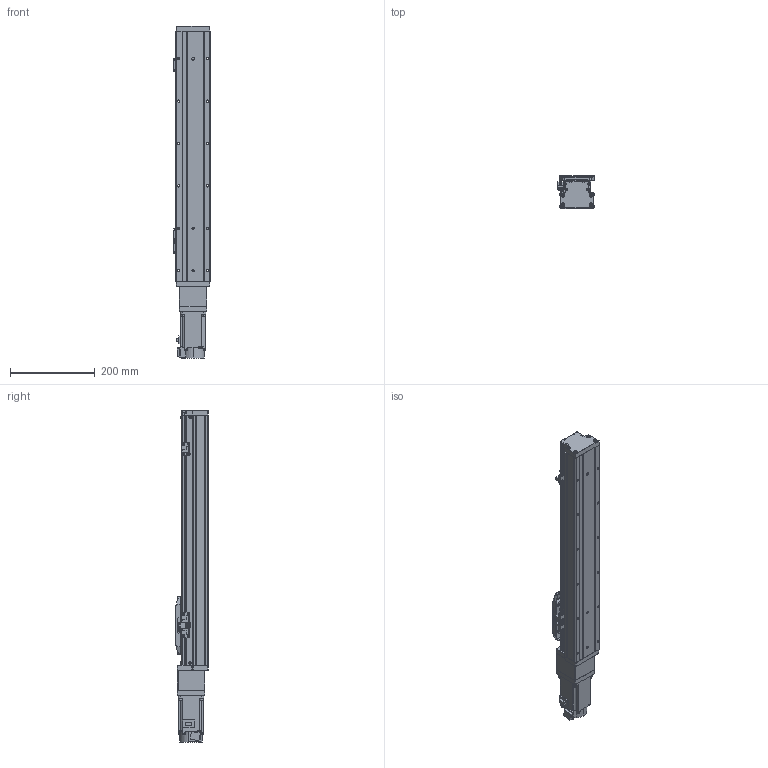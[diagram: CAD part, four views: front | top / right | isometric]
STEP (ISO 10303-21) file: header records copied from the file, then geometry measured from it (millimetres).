
FILE_DESCRIPTION (( 'STEP AP203' ), '1' );
FILE_NAME ('GTH8-400-BC-M20-C4.step', '2022-09-23T00:54:46', ( '微软用户' ), ( '微软中国' ), 'SwSTEP 2.0', 'SolidWorks 2020', '' );
FILE_SCHEMA (( 'CONFIG_CONTROL_DESIGN' ));
Length unit declared in the file: millimetre
Products named in the file (19): GTH80-004; GTH80-028; CTHA86-027; GTH80-006; GTH50-024; hg-kn43j_-s100_; GTH80-013; GTH50-023; GTH8-400-BC-M20-C4; GBT 70.3-M3℅6; GBT96.1-2002 3×0.8; GTH80-022; BTH-M3X5X6; GTH80-001_400; GBT 70.1-M3℅6; CTHA86-006-1_CTHA86-006-2; GTH80-003; GBT 70.1-M4×16; CTHA86-013
Assembly tree (60 placements, depth 2):
  GTH8-400-BC-M20-C4
    GTH80-001_400
    GTH80-003
    GTH80-004
    GTH80-006
    GTH80-013
    GBT 70.3-M3℅6  x6
    GTH80-022
    GBT 70.1-M3℅6  x14
    GBT 70.1-M4×16  x8
    GTH80-028  x2
    GTH50-024  x3
    GTH50-023  x3
    GBT96.1-2002 3×0.8  x6
    BTH-M3X5X6  x8
    CTHA86-006-1_CTHA86-006-2
    CTHA86-013
    CTHA86-027
    hg-kn43j_-s100_
Bounding box: 86.9 x 78 x 782.7 mm (x, y, z)
Volume: 3365285.2 mm3; surface area: 380692 mm2
Topology: 62 solids, 62 shells, 2223 faces, 5104 edges, 3107 vertices
Faces by surface type: plane 1173, cylinder 593, cone 285, torus 162, sphere 8, bspline 2
Entity records: 38520 total; most frequent: CARTESIAN_POINT 6359, DIRECTION 6310, ORIENTED_EDGE 5798, EDGE_CURVE 2899, AXIS2_PLACEMENT_3D 2200, VECTOR 1910, LINE 1910, VERTEX_POINT 1820
